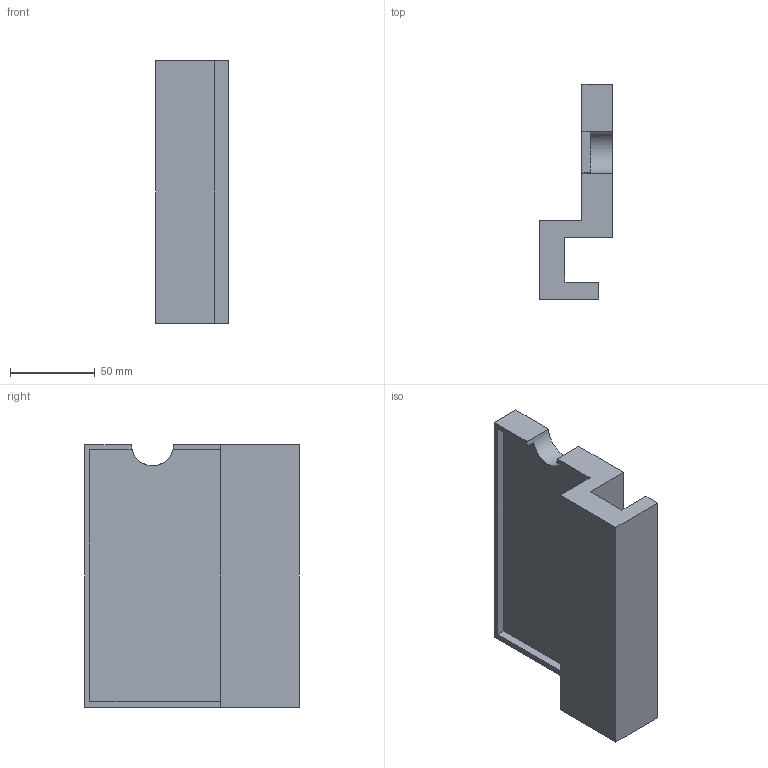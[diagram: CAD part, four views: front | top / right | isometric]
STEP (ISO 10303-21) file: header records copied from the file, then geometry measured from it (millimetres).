
FILE_DESCRIPTION(/* description */ (''),/* implementation_level */ '2;1');
FILE_NAME(/* name */ 'C:\Users\Anthony\Documents\Parts\Phone Shelf 2.stp',/* time_stamp */ '2015-04-07T10:51:47-04:00',/* author */ ('Anthony'),/* organization */ (''),/* preprocessor_version */ 'ST-DEVELOPER v15.6',/* originating_system */ 'Autodesk Inventor 2015',/* authorisation */ '');
FILE_SCHEMA (('AUTOMOTIVE_DESIGN { 1 0 10303 214 3 1 1 }'));
Length unit declared in the file: millimetre
Products named in the file (1): Phone Shelf 2
Bounding box: 43 x 126.5 x 155 mm (x, y, z)
Volume: 329282.7 mm3; surface area: 64963 mm2
Topology: 1 solids, 1 shells, 22 faces, 66 edges, 44 vertices
Faces by surface type: plane 21, cylinder 1
Entity records: 762 total; most frequent: CARTESIAN_POINT 133, ORIENTED_EDGE 132, DIRECTION 116, EDGE_CURVE 66, LINE 62, VECTOR 62, VERTEX_POINT 44, AXIS2_PLACEMENT_3D 27
